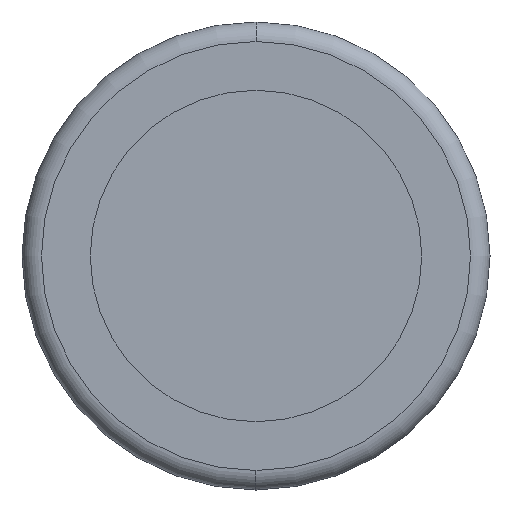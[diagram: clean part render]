
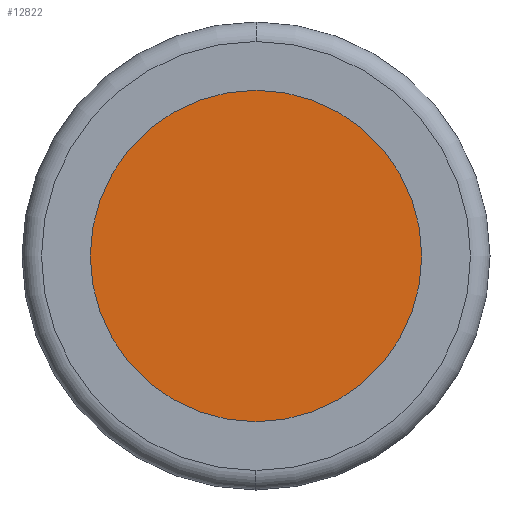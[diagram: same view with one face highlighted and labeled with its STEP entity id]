
A CAD part, left-side view. The second image highlights one B-rep face of the part: STEP entity #12822.
In plain terms, the highlighted planar face has unit normal (-1, 0, 0) as drawn and (0, 0, -1) by its records, which use the part's own axes.
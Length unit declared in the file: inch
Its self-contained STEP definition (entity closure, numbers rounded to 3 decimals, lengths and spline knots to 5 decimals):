
#493 = AXIS2_PLACEMENT_3D ( 'NONE', #14146, #3453, #15918 ) ;
#1109 = VERTEX_POINT ( 'NONE', #20780 ) ;
#1345 = EDGE_CURVE ( 'NONE', #10860, #1109, #21884, .T. ) ;
#1603 = DIRECTION ( 'NONE',  ( 1., 0., 0. ) ) ;
#3453 = DIRECTION ( 'NONE',  ( 0., 0., 1. ) ) ;
#5521 = CARTESIAN_POINT ( 'NONE',  ( 1.125, 0., 0. ) ) ;
#5786 = DIRECTION ( 'NONE',  ( 1., 0., 0. ) ) ;
#5863 = DIRECTION ( 'NONE',  ( 0., 0., 1. ) ) ;
#6180 = CARTESIAN_POINT ( 'NONE',  ( 0., 0., 0. ) ) ;
#8764 = CIRCLE ( 'NONE', #493, 1.125 ) ;
#10189 = EDGE_CURVE ( 'NONE', #1109, #10860, #8764, .T. ) ;
#10860 = VERTEX_POINT ( 'NONE', #5521 ) ;
#11596 = ORIENTED_EDGE ( 'NONE', *, *, #1345, .F. ) ;
#12272 = DIRECTION ( 'NONE',  ( 0., 0., 1. ) ) ;
#12822 = ADVANCED_FACE ( 'NONE', ( #22319 ), #13895, .F. ) ;
#13895 = PLANE ( 'NONE',  #16146 ) ;
#14146 = CARTESIAN_POINT ( 'NONE',  ( 0., 0., 0. ) ) ;
#14164 = ORIENTED_EDGE ( 'NONE', *, *, #10189, .F. ) ;
#14667 = AXIS2_PLACEMENT_3D ( 'NONE', #6180, #5863, #5786 ) ;
#14790 = EDGE_LOOP ( 'NONE', ( #14164, #11596 ) ) ;
#15918 = DIRECTION ( 'NONE',  ( 1., 0., 0. ) ) ;
#16146 = AXIS2_PLACEMENT_3D ( 'NONE', #22946, #12272, #1603 ) ;
#20780 = CARTESIAN_POINT ( 'NONE',  ( -1.125, 0., 0. ) ) ;
#21884 = CIRCLE ( 'NONE', #14667, 1.125 ) ;
#22319 = FACE_OUTER_BOUND ( 'NONE', #14790, .T. ) ;
#22946 = CARTESIAN_POINT ( 'NONE',  ( 0., 0., 0. ) ) ;
